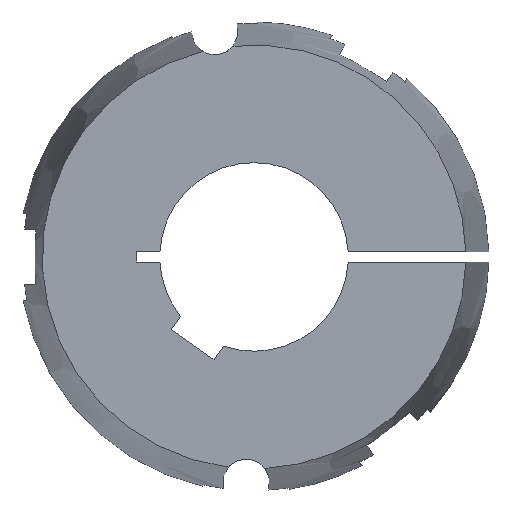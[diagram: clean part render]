
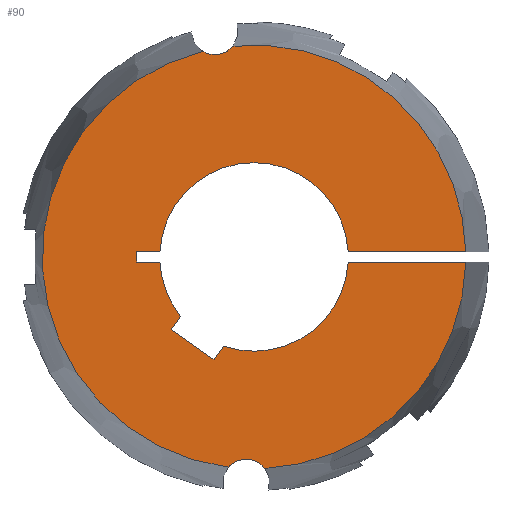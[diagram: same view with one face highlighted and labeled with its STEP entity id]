
A CAD part, left-side view. The second image highlights one B-rep face of the part: STEP entity #90.
In plain terms, the highlighted planar face has unit normal (-1, 0, 0).
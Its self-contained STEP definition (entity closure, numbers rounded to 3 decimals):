
#90 = ADVANCED_FACE( '', ( #140 ), #141, .F. );
#140 = FACE_OUTER_BOUND( '', #208, .T. );
#141 = PLANE( '', #209 );
#208 = EDGE_LOOP( '', ( #369, #370, #371, #372, #373, #374, #375, #376, #377, #378, #379, #380, #381, #382, #383, #384 ) );
#209 = AXIS2_PLACEMENT_3D( '', #385, #386, #387 );
#369 = ORIENTED_EDGE( '', *, *, #548, .F. );
#370 = ORIENTED_EDGE( '', *, *, #601, .F. );
#371 = ORIENTED_EDGE( '', *, *, #570, .T. );
#372 = ORIENTED_EDGE( '', *, *, #583, .T. );
#373 = ORIENTED_EDGE( '', *, *, #581, .T. );
#374 = ORIENTED_EDGE( '', *, *, #578, .T. );
#375 = ORIENTED_EDGE( '', *, *, #587, .T. );
#376 = ORIENTED_EDGE( '', *, *, #602, .T. );
#377 = ORIENTED_EDGE( '', *, *, #603, .T. );
#378 = ORIENTED_EDGE( '', *, *, #604, .T. );
#379 = ORIENTED_EDGE( '', *, *, #605, .T. );
#380 = ORIENTED_EDGE( '', *, *, #606, .T. );
#381 = ORIENTED_EDGE( '', *, *, #572, .T. );
#382 = ORIENTED_EDGE( '', *, *, #607, .F. );
#383 = ORIENTED_EDGE( '', *, *, #551, .F. );
#384 = ORIENTED_EDGE( '', *, *, #608, .F. );
#385 = CARTESIAN_POINT( '', ( -114., 0., 0. ) );
#386 = DIRECTION( '', ( 1., 0., 0. ) );
#387 = DIRECTION( '', ( 0., 1., 0. ) );
#548 = EDGE_CURVE( '', #649, #651, #652, .F. );
#551 = EDGE_CURVE( '', #655, #657, #658, .F. );
#570 = EDGE_CURVE( '', #693, #691, #694, .T. );
#572 = EDGE_CURVE( '', #696, #697, #698, .T. );
#578 = EDGE_CURVE( '', #709, #707, #710, .T. );
#581 = EDGE_CURVE( '', #714, #709, #715, .T. );
#583 = EDGE_CURVE( '', #691, #714, #717, .T. );
#587 = EDGE_CURVE( '', #707, #721, #723, .T. );
#601 = EDGE_CURVE( '', #693, #649, #745, .T. );
#602 = EDGE_CURVE( '', #721, #746, #747, .T. );
#603 = EDGE_CURVE( '', #746, #748, #749, .T. );
#604 = EDGE_CURVE( '', #748, #750, #751, .T. );
#605 = EDGE_CURVE( '', #750, #752, #753, .T. );
#606 = EDGE_CURVE( '', #752, #696, #754, .T. );
#607 = EDGE_CURVE( '', #657, #697, #755, .T. );
#608 = EDGE_CURVE( '', #651, #655, #756, .T. );
#649 = VERTEX_POINT( '', #815 );
#651 = VERTEX_POINT( '', #826 );
#652 = CIRCLE( '', #827, 8.125 );
#655 = VERTEX_POINT( '', #839 );
#657 = VERTEX_POINT( '', #852 );
#658 = CIRCLE( '', #853, 8.125 );
#691 = VERTEX_POINT( '', #920 );
#693 = VERTEX_POINT( '', #923 );
#694 = LINE( '', #924, #925 );
#696 = VERTEX_POINT( '', #933 );
#697 = VERTEX_POINT( '', #934 );
#698 = LINE( '', #935, #936 );
#707 = VERTEX_POINT( '', #954 );
#709 = VERTEX_POINT( '', #957 );
#710 = LINE( '', #958, #959 );
#714 = VERTEX_POINT( '', #965 );
#715 = LINE( '', #966, #967 );
#717 = CIRCLE( '', #970, 32.5 );
#721 = VERTEX_POINT( '', #975 );
#723 = LINE( '', #978, #979 );
#745 = CIRCLE( '', #1004, 73.028 );
#746 = VERTEX_POINT( '', #1005 );
#747 = CIRCLE( '', #1006, 32.5 );
#748 = VERTEX_POINT( '', #1007 );
#749 = LINE( '', #1008, #1009 );
#750 = VERTEX_POINT( '', #1010 );
#751 = LINE( '', #1011, #1012 );
#752 = VERTEX_POINT( '', #1013 );
#753 = LINE( '', #1014, #1015 );
#754 = CIRCLE( '', #1016, 32.5 );
#755 = CIRCLE( '', #1017, 73.028 );
#756 = CIRCLE( '', #1018, 73.028 );
#815 = CARTESIAN_POINT( '', ( -114., -3.751, -72.932 ) );
#826 = CARTESIAN_POINT( '', ( -114., 8.826, -72.493 ) );
#827 = AXIS2_PLACEMENT_3D( '', #1192, #1193, #1194 );
#839 = CARTESIAN_POINT( '', ( -114., 17.661, 70.861 ) );
#852 = CARTESIAN_POINT( '', ( -114., 7.262, 72.666 ) );
#853 = AXIS2_PLACEMENT_3D( '', #1195, #1196, #1197 );
#920 = CARTESIAN_POINT( '', ( -114., -32.453, -1.75 ) );
#923 = CARTESIAN_POINT( '', ( -114., -73.007, -1.75 ) );
#924 = CARTESIAN_POINT( '', ( -114., -81., -1.75 ) );
#925 = VECTOR( '', #1227, 1000. );
#933 = CARTESIAN_POINT( '', ( -114., -32.453, 1.75 ) );
#934 = CARTESIAN_POINT( '', ( -114., -73.007, 1.75 ) );
#935 = CARTESIAN_POINT( '', ( -114., 0., 1.75 ) );
#936 = VECTOR( '', #1228, 1000. );
#954 = CARTESIAN_POINT( '', ( -114., 28.537, -25.065 ) );
#957 = CARTESIAN_POINT( '', ( -114., 13.793, -35.389 ) );
#958 = CARTESIAN_POINT( '', ( -114., 13.793, -35.389 ) );
#959 = VECTOR( '', #1233, 1000. );
#965 = CARTESIAN_POINT( '', ( -114., 10.54, -30.743 ) );
#966 = CARTESIAN_POINT( '', ( -114., 10.54, -30.743 ) );
#967 = VECTOR( '', #1236, 1000. );
#970 = AXIS2_PLACEMENT_3D( '', #1238, #1239, #1240 );
#975 = CARTESIAN_POINT( '', ( -114., 25.285, -20.419 ) );
#978 = CARTESIAN_POINT( '', ( -114., 28.537, -25.065 ) );
#979 = VECTOR( '', #1246, 1000. );
#1004 = AXIS2_PLACEMENT_3D( '', #1280, #1281, #1282 );
#1005 = CARTESIAN_POINT( '', ( -114., 32.453, -1.75 ) );
#1006 = AXIS2_PLACEMENT_3D( '', #1283, #1284, #1285 );
#1007 = CARTESIAN_POINT( '', ( -114., 40.5, -1.75 ) );
#1008 = CARTESIAN_POINT( '', ( -114., 0., -1.75 ) );
#1009 = VECTOR( '', #1286, 1000. );
#1010 = CARTESIAN_POINT( '', ( -114., 40.5, 1.75 ) );
#1011 = CARTESIAN_POINT( '', ( -114., 40.5, -1.75 ) );
#1012 = VECTOR( '', #1287, 1000. );
#1013 = CARTESIAN_POINT( '', ( -114., 32.453, 1.75 ) );
#1014 = CARTESIAN_POINT( '', ( -114., 40.5, 1.75 ) );
#1015 = VECTOR( '', #1288, 1000. );
#1016 = AXIS2_PLACEMENT_3D( '', #1289, #1290, #1291 );
#1017 = AXIS2_PLACEMENT_3D( '', #1292, #1293, #1294 );
#1018 = AXIS2_PLACEMENT_3D( '', #1295, #1296, #1297 );
#1192 = CARTESIAN_POINT( '', ( -114., 2.717, -77.85 ) );
#1193 = DIRECTION( '', ( 1., 0., 0. ) );
#1194 = DIRECTION( '', ( 0., 1., 0. ) );
#1195 = CARTESIAN_POINT( '', ( -114., 13.519, 77.85 ) );
#1196 = DIRECTION( '', ( 1., 0., 0. ) );
#1197 = DIRECTION( '', ( 0., 1., 0. ) );
#1227 = DIRECTION( '', ( 0., 1., 0. ) );
#1228 = DIRECTION( '', ( 0., -1., 0. ) );
#1233 = DIRECTION( '', ( 0., 0.819, 0.574 ) );
#1236 = DIRECTION( '', ( 0., 0.574, -0.819 ) );
#1238 = CARTESIAN_POINT( '', ( -114., 0., 0. ) );
#1239 = DIRECTION( '', ( 1., 0., 0. ) );
#1240 = DIRECTION( '', ( 0., 0., -1. ) );
#1246 = DIRECTION( '', ( 0., -0.574, 0.819 ) );
#1280 = CARTESIAN_POINT( '', ( -114., 0., 0. ) );
#1281 = DIRECTION( '', ( 1., 0., 0. ) );
#1282 = DIRECTION( '', ( 0., 1., 0. ) );
#1283 = CARTESIAN_POINT( '', ( -114., 0., 0. ) );
#1284 = DIRECTION( '', ( 1., 0., 0. ) );
#1285 = DIRECTION( '', ( 0., 0., -1. ) );
#1286 = DIRECTION( '', ( 0., 1., 0. ) );
#1287 = DIRECTION( '', ( 0., 0., 1. ) );
#1288 = DIRECTION( '', ( 0., -1., 0. ) );
#1289 = CARTESIAN_POINT( '', ( -114., 0., 0. ) );
#1290 = DIRECTION( '', ( 1., 0., 0. ) );
#1291 = DIRECTION( '', ( 0., 0., -1. ) );
#1292 = CARTESIAN_POINT( '', ( -114., 0., 0. ) );
#1293 = DIRECTION( '', ( 1., 0., 0. ) );
#1294 = DIRECTION( '', ( 0., 1., 0. ) );
#1295 = CARTESIAN_POINT( '', ( -114., 0., 0. ) );
#1296 = DIRECTION( '', ( 1., 0., 0. ) );
#1297 = DIRECTION( '', ( 0., 1., 0. ) );
